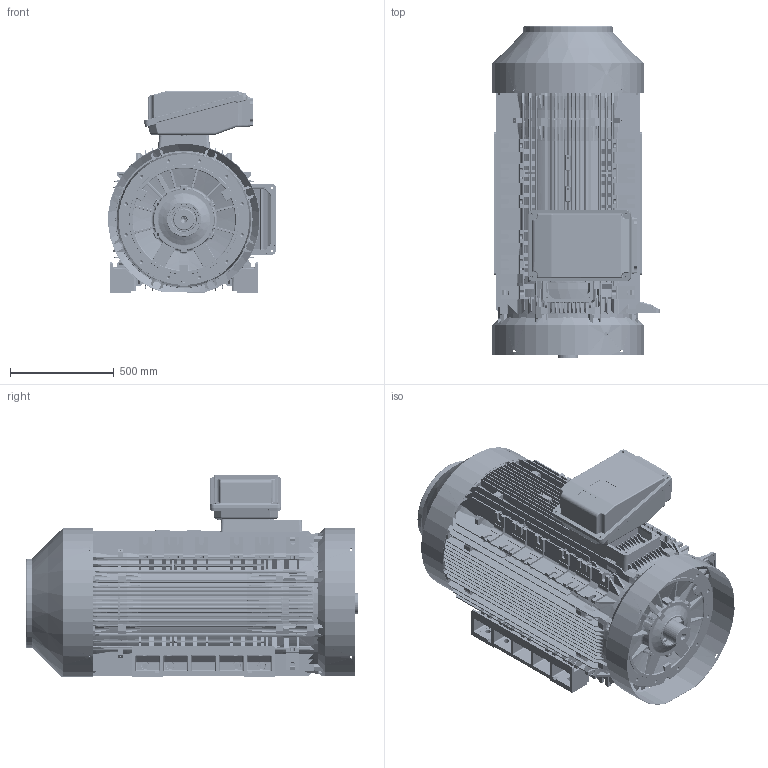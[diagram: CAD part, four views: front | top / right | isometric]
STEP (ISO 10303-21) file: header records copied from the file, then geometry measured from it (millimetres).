
FILE_DESCRIPTION( ( 'Unknown' ), '1' );
FILE_NAME( 'C:/Documents and Settings/dlezon/Pulpit/zamowienia/ZABAWA WP-UDF355M 4P B3 TBT/WP-UDF355M 4P B3 TBT.stp', 'Unknown', ( 'Unknown' ), ( 'Unknown' ), 'PSStep 10.1', 'Unknown', ' ' );
FILE_SCHEMA( ( 'AUTOMOTIVE_DESIGN { 1 0 10303 214 1 1 1 1 }' ) );
Length unit declared in the file: millimetre
Products named in the file (33): Assem1; bearing_n324_roller; w6lfm_original; w6hea_b30512; w6nsd111ba02; w6lna_sm; w6hea_1; w6hea_b30512_1; w6lna_sm_1; 1; 2; 3; 4; 5; 6; 7; 8; 9; 10; 11; 12; 13; 14; 15; 16; w6lfm_original_0; W6FCA10439; w4ltb_sm; w4lxb_sm; w4lga_121M63M20; B30176; a35662d
Bounding box: 807.16 x 1598.32 x 973.75 mm (x, y, z)
Surface area: 49463547.6 mm2 (no closed solid volume)
Topology: 0 solids, 33899 shells, 33915 faces, 185127 edges, 183619 vertices
Faces by surface type: plane 17517, cylinder 7727, bspline 5318, torus 1745, cone 1046, sphere 514, revolution 48
Full cylindrical faces by diameter (mm): 3.432 x20, 5 x16, 5.188 x4, 6.647 x2, 6.985 x16, 8 x15, 8.5 x3, 8.782 x32, 8.985 x4, 10 x3, 11 x8, 12 x72, 15 x11, 17.5 x48, 17.97 x48, 18.376 x2, 20 x44, 21 x3, 22 x32, 24 x67, 25 x3, 28 x16, 38 x39, 60.376 x4, 100.024 x3, 108 x3, 112 x6, 114.98 x3, 115 x3, 115.73 x6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
Entity records: 952008 total; most frequent: CARTESIAN_POINT 389829, DIRECTION 92758, ORIENTED_EDGE 66966, EDGE_CURVE 66966, VERTEX_POINT 66966, LINE 44592, VECTOR 44592, AXIS2_PLACEMENT_3D 24075
